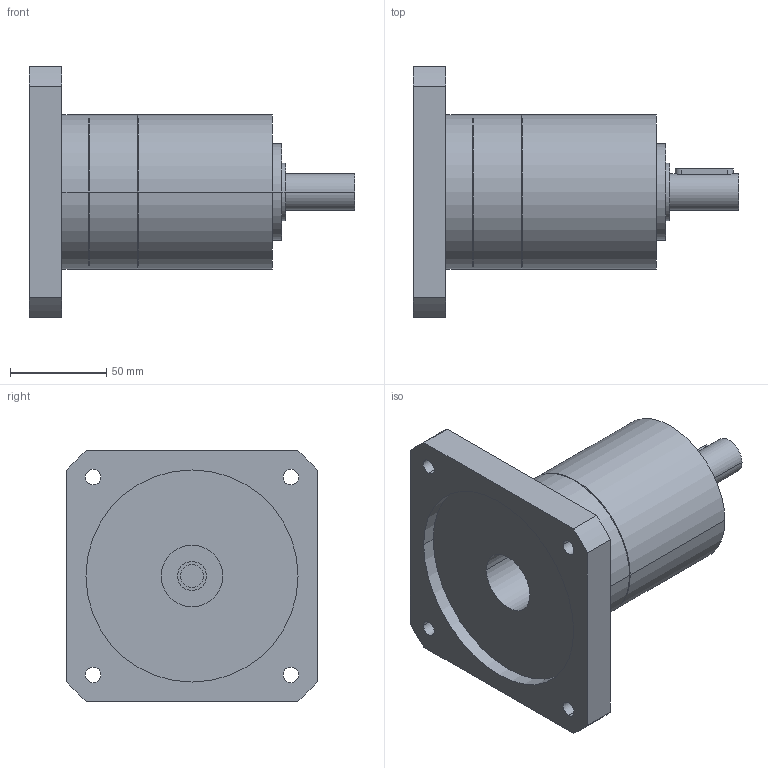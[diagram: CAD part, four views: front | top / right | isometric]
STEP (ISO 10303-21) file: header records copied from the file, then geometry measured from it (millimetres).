
FILE_DESCRIPTION(('CoCreate Modeling STEP Export'),'2;1');
FILE_NAME('GPR100_ig-3-4-5-6_19_B14_12.7_P18.stp','2014-08-26T10:06:56',(''),(''),'CoCreate Modeling STEP processor for AP214 (Solid Model)','CoCreate Modeling 16.00C 25-Feb-2009 (C) Parametric Technology GmbH','');
FILE_SCHEMA(('AUTOMOTIVE_DESIGN { 1 0 10303 214 1 1 1 1 }'));
Length unit declared in the file: millimetre
Products named in the file (2): GPR100_ig-3-4-5-6_19_B14_12.7_P18
Assembly tree (1 placements, depth 2):
  GPR100_ig-3-4-5-6_19_B14_12.7_P18
    GPR100_ig-3-4-5-6_19_B14_12.7_P18
Bounding box: 169 x 130 x 130 mm (x, y, z)
Volume: 760907.5 mm3; surface area: 81547.8 mm2
Topology: 1 solids, 1 shells, 73 faces, 194 edges, 136 vertices
Faces by surface type: cylinder 44, plane 23, cone 6
Entity records: 2004 total; most frequent: ORIENTED_EDGE 384, CARTESIAN_POINT 370, DIRECTION 272, EDGE_CURVE 192, VERTEX_POINT 136, AXIS2_PLACEMENT_3D 102, EDGE_LOOP 96, FACE_OUTER_BOUND 73
